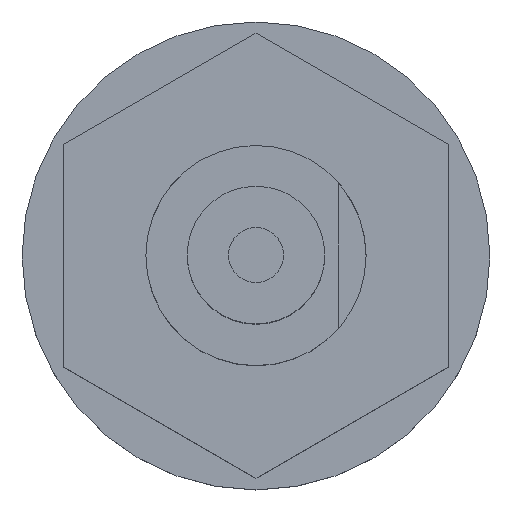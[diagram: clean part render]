
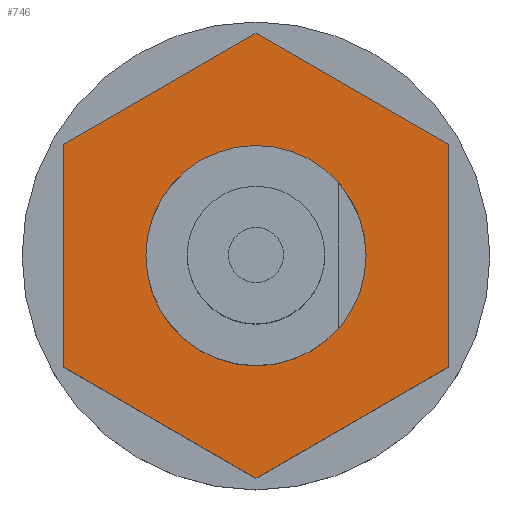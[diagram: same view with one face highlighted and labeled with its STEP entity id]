
A CAD part, top view. The second image highlights one B-rep face of the part: STEP entity #746.
In plain terms, the highlighted planar face has unit normal (0, 0, 1) as drawn and (-1, 0, 0) by its records, which use the part's own axes.
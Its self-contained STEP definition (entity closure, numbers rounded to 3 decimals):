
#53 = DIRECTION ( 'NONE',  ( 0., -0.5, -0.866 ) ) ;
#54 = VECTOR ( 'NONE', #53, 1000. ) ;
#55 = CARTESIAN_POINT ( 'NONE',  ( 6.6, 4.041, 0. ) ) ;
#56 = LINE ( 'NONE', #55, #54 ) ;
#57 = CARTESIAN_POINT ( 'NONE',  ( 6.6, 4.041, 0. ) ) ;
#58 = DIRECTION ( 'NONE',  ( 0., 0.5, -0.866 ) ) ;
#59 = VECTOR ( 'NONE', #58, 1000. ) ;
#60 = CARTESIAN_POINT ( 'NONE',  ( 6.6, 2.021, 3.5 ) ) ;
#61 = LINE ( 'NONE', #60, #59 ) ;
#62 = CARTESIAN_POINT ( 'NONE',  ( 6.6, 2.021, 3.5 ) ) ;
#63 = DIRECTION ( 'NONE',  ( 0., -1., 0. ) ) ;
#64 = DIRECTION ( 'NONE',  ( -1., 0., 0. ) ) ;
#65 = CARTESIAN_POINT ( 'NONE',  ( 6.6, 4.041, 0. ) ) ;
#66 = AXIS2_PLACEMENT_3D ( 'NONE', #65, #64, #63 ) ;
#67 = PLANE ( 'NONE',  #66 ) ;
#68 = FACE_BOUND ( 'NONE', #458, .T. ) ;
#69 = FACE_OUTER_BOUND ( 'NONE', #744, .T. ) ;
#458 = EDGE_LOOP ( 'NONE', ( #462, #461 ) ) ;
#461 = ORIENTED_EDGE ( 'NONE', *, *, #463, .F. ) ;
#462 = ORIENTED_EDGE ( 'NONE', *, *, #688, .F. ) ;
#463 = EDGE_CURVE ( 'NONE', #689, #686, #1262, .T. ) ;
#502 = EDGE_CURVE ( 'NONE', #734, #747, #1268, .T. ) ;
#686 = VERTEX_POINT ( 'NONE', #1601 ) ;
#688 = EDGE_CURVE ( 'NONE', #686, #689, #1600, .T. ) ;
#689 = VERTEX_POINT ( 'NONE', #1595 ) ;
#731 = ORIENTED_EDGE ( 'NONE', *, *, #502, .T. ) ;
#732 = ORIENTED_EDGE ( 'NONE', *, *, #733, .T. ) ;
#733 = EDGE_CURVE ( 'NONE', #737, #734, #1674, .T. ) ;
#734 = VERTEX_POINT ( 'NONE', #1670 ) ;
#735 = ORIENTED_EDGE ( 'NONE', *, *, #736, .T. ) ;
#736 = EDGE_CURVE ( 'NONE', #740, #737, #1669, .T. ) ;
#737 = VERTEX_POINT ( 'NONE', #1665 ) ;
#738 = ORIENTED_EDGE ( 'NONE', *, *, #739, .T. ) ;
#739 = EDGE_CURVE ( 'NONE', #741, #740, #1664, .T. ) ;
#740 = VERTEX_POINT ( 'NONE', #1660 ) ;
#741 = VERTEX_POINT ( 'NONE', #1659 ) ;
#744 = EDGE_LOOP ( 'NONE', ( #748, #751, #738, #735, #732, #731 ) ) ;
#746 = ADVANCED_FACE ( 'NONE', ( #69, #68 ), #67, .T. ) ;
#747 = VERTEX_POINT ( 'NONE', #62 ) ;
#748 = ORIENTED_EDGE ( 'NONE', *, *, #749, .T. ) ;
#749 = EDGE_CURVE ( 'NONE', #747, #750, #61, .T. ) ;
#750 = VERTEX_POINT ( 'NONE', #57 ) ;
#751 = ORIENTED_EDGE ( 'NONE', *, *, #752, .T. ) ;
#752 = EDGE_CURVE ( 'NONE', #750, #741, #56, .T. ) ;
#1258 = DIRECTION ( 'NONE',  ( 0., -1., 0. ) ) ;
#1259 = DIRECTION ( 'NONE',  ( -1., 0., 0. ) ) ;
#1260 = CARTESIAN_POINT ( 'NONE',  ( 6.6, 0., 0. ) ) ;
#1261 = AXIS2_PLACEMENT_3D ( 'NONE', #1260, #1259, #1258 ) ;
#1262 = CIRCLE ( 'NONE', #1261, 2. ) ;
#1265 = DIRECTION ( 'NONE',  ( 0., 1., 0. ) ) ;
#1266 = VECTOR ( 'NONE', #1265, 1000. ) ;
#1267 = CARTESIAN_POINT ( 'NONE',  ( 6.6, -2.021, 3.5 ) ) ;
#1268 = LINE ( 'NONE', #1267, #1266 ) ;
#1595 = CARTESIAN_POINT ( 'NONE',  ( 6.6, -2., 0. ) ) ;
#1596 = DIRECTION ( 'NONE',  ( 0., -1., 0. ) ) ;
#1597 = DIRECTION ( 'NONE',  ( -1., 0., 0. ) ) ;
#1598 = CARTESIAN_POINT ( 'NONE',  ( 6.6, 0., 0. ) ) ;
#1599 = AXIS2_PLACEMENT_3D ( 'NONE', #1598, #1597, #1596 ) ;
#1600 = CIRCLE ( 'NONE', #1599, 2. ) ;
#1601 = CARTESIAN_POINT ( 'NONE',  ( 6.6, 2., 0. ) ) ;
#1659 = CARTESIAN_POINT ( 'NONE',  ( 6.6, 2.021, -3.5 ) ) ;
#1660 = CARTESIAN_POINT ( 'NONE',  ( 6.6, -2.021, -3.5 ) ) ;
#1661 = DIRECTION ( 'NONE',  ( 0., -1., 0. ) ) ;
#1662 = VECTOR ( 'NONE', #1661, 1000. ) ;
#1663 = CARTESIAN_POINT ( 'NONE',  ( 6.6, 2.021, -3.5 ) ) ;
#1664 = LINE ( 'NONE', #1663, #1662 ) ;
#1665 = CARTESIAN_POINT ( 'NONE',  ( 6.6, -4.041, 0. ) ) ;
#1666 = DIRECTION ( 'NONE',  ( 0., -0.5, 0.866 ) ) ;
#1667 = VECTOR ( 'NONE', #1666, 1000. ) ;
#1668 = CARTESIAN_POINT ( 'NONE',  ( 6.6, -2.021, -3.5 ) ) ;
#1669 = LINE ( 'NONE', #1668, #1667 ) ;
#1670 = CARTESIAN_POINT ( 'NONE',  ( 6.6, -2.021, 3.5 ) ) ;
#1671 = DIRECTION ( 'NONE',  ( 0., 0.5, 0.866 ) ) ;
#1672 = VECTOR ( 'NONE', #1671, 1000. ) ;
#1673 = CARTESIAN_POINT ( 'NONE',  ( 6.6, -4.041, 0. ) ) ;
#1674 = LINE ( 'NONE', #1673, #1672 ) ;
